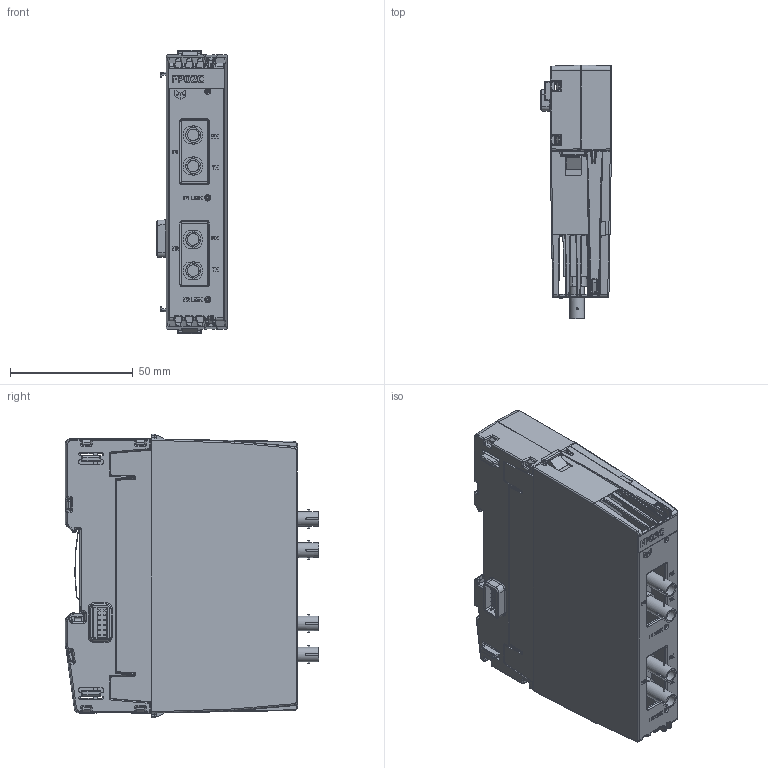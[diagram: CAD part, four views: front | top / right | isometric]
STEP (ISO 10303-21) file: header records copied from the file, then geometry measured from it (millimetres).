
FILE_DESCRIPTION(/* description */ (''),/* implementation_level */ '2;1');
FILE_NAME(/* name */ 'C:\Users\Public\Documents\Autodesk\Inventor 2023\FP02C_Simplified+BackBB81B.stp',/* time_stamp */ '2024-10-23T21:25:59+02:00',/* author */ ('shoma'),/* organization */ (''),/* preprocessor_version */ 'ST-DEVELOPER v19',/* originating_system */ 'Autodesk Inventor 2023',/* authorisation */ '');
FILE_SCHEMA (('AUTOMOTIVE_DESIGN { 1 0 10303 214 3 1 1 }'));
Products named in the file (1): FP02C_Simplified+BackBB81B
Bounding box: 28.9 x 103.12 x 115.5 mm (x, y, z)
Volume: 129248.8 mm3; surface area: 77632.2 mm2
Topology: 9 solids, 9 shells, 5172 faces, 13802 edges, 8627 vertices
Faces by surface type: plane 2659, cylinder 1788, bspline 531, sphere 156, torus 23, cone 15
Full cylindrical faces by diameter (mm): 0.016 x2, 0.3 x38, 0.7 x36, 0.75 x8, 0.8 x6, 0.85 x24, 0.9 x8, 1 x8, 1.27 x4, 1.4 x4, 1.6 x2, 1.9 x2, 2.35 x2, 2.5 x1, 2.6 x4, 3 x1, 3.25 x2, 4.75 x4, 6 x4
Entity records: 179819 total; most frequent: CARTESIAN_POINT 46114, ORIENTED_EDGE 27304, DIRECTION 26141, EDGE_CURVE 13652, LINE 8937, VECTOR 8937, VERTEX_POINT 8627, AXIS2_PLACEMENT_3D 8602
